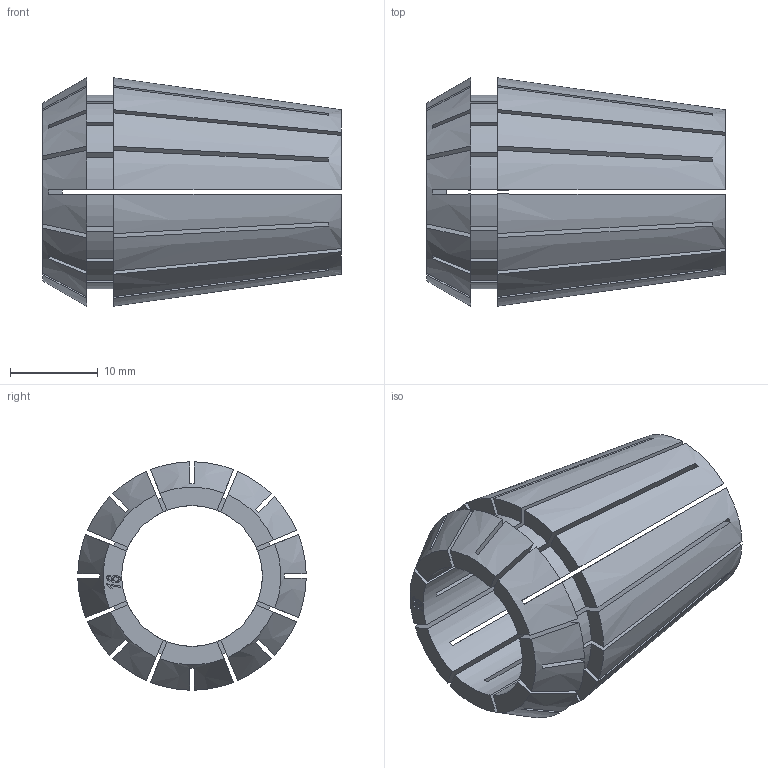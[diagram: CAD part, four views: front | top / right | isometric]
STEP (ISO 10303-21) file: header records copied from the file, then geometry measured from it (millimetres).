
FILE_DESCRIPTION(('STEP AP214'), '1');
FILE_NAME('ﾖ瑙聰 ER25-16', '', ('UNSPECIFIED'), ('UNSPECIFIED'), 'ASCON STEP Converter 1.6', 'ASCON Math Kernel', '');
FILE_SCHEMA(('AUTOMOTIVE_DESIGN { 1 0 10303 214 3 1 1}'));
Length unit declared in the file: millimetre
Bounding box: 34 x 26 x 26 mm (x, y, z)
Volume: 5858.2 mm3; surface area: 7533.4 mm2
Topology: 1 solids, 1 shells, 157 faces, 462 edges, 308 vertices
Faces by surface type: plane 106, cylinder 18, bspline 17, cone 16
Full cylindrical faces by diameter (mm): 16 x1
Entity records: 7720 total; most frequent: CARTESIAN_POINT 2417, ORIENTED_EDGE 922, DIRECTION 741, EDGE_CURVE 461, VERTEX_POINT 308, AXIS2_PLACEMENT_3D 255, LINE 231, VECTOR 231
